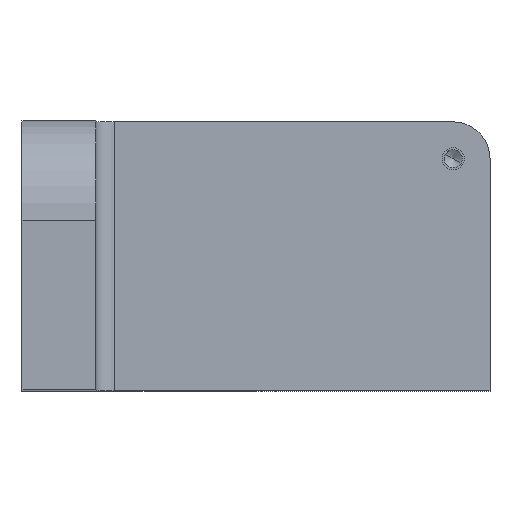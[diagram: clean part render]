
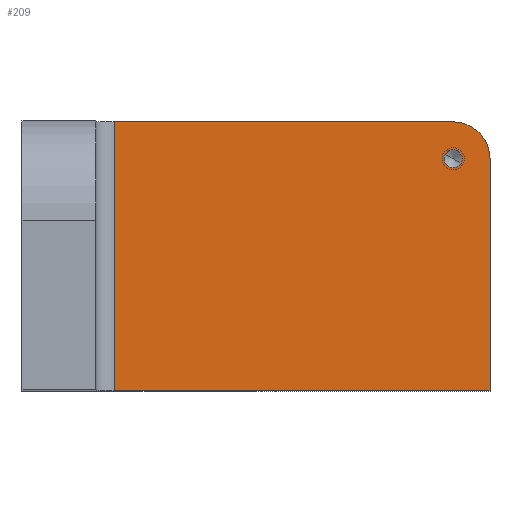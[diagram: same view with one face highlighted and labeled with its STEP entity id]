
A CAD part, top view. The second image highlights one B-rep face of the part: STEP entity #209.
In plain terms, the highlighted planar face has unit normal (0, 0, 1).
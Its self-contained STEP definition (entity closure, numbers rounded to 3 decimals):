
#144=CARTESIAN_POINT('Axis2P3D Location',(0.,0.,20.)) ;
#149=CARTESIAN_POINT('Line Origine',(76.,0.,20.)) ;
#153=CARTESIAN_POINT('Vertex',(25.,0.,20.)) ;
#155=CARTESIAN_POINT('Vertex',(127.,0.,20.)) ;
#158=CARTESIAN_POINT('Line Origine',(127.,31.5,20.)) ;
#162=CARTESIAN_POINT('Vertex',(127.,63.,20.)) ;
#165=CARTESIAN_POINT('Axis2P3D Location',(117.,63.,20.)) ;
#169=CARTESIAN_POINT('Vertex',(117.,73.,20.)) ;
#172=CARTESIAN_POINT('Line Origine',(71.,73.,20.)) ;
#176=CARTESIAN_POINT('Vertex',(25.,73.,20.)) ;
#179=CARTESIAN_POINT('Line Origine',(25.,36.5,20.)) ;
#191=CARTESIAN_POINT('Axis2P3D Location',(117.,63.,20.)) ;
#195=CARTESIAN_POINT('Vertex',(114.842,64.179,20.)) ;
#197=CARTESIAN_POINT('Vertex',(119.158,61.821,20.)) ;
#200=CARTESIAN_POINT('Axis2P3D Location',(117.,63.,20.)) ;
#145=DIRECTION('Axis2P3D Direction',(0.,0.,1.)) ;
#146=DIRECTION('Axis2P3D XDirection',(1.,0.,0.)) ;
#150=DIRECTION('Vector Direction',(1.,0.,0.)) ;
#159=DIRECTION('Vector Direction',(0.,1.,0.)) ;
#166=DIRECTION('Axis2P3D Direction',(0.,0.,1.)) ;
#173=DIRECTION('Vector Direction',(-1.,0.,0.)) ;
#180=DIRECTION('Vector Direction',(0.,-1.,0.)) ;
#192=DIRECTION('Axis2P3D Direction',(0.,0.,1.)) ;
#201=DIRECTION('Axis2P3D Direction',(0.,0.,1.)) ;
#147=AXIS2_PLACEMENT_3D('Plane Axis2P3D',#144,#145,#146) ;
#167=AXIS2_PLACEMENT_3D('Circle Axis2P3D',#165,#166,$) ;
#193=AXIS2_PLACEMENT_3D('Circle Axis2P3D',#191,#192,$) ;
#202=AXIS2_PLACEMENT_3D('Circle Axis2P3D',#200,#201,$) ;
#185=ORIENTED_EDGE('',*,*,#157,.T.) ;
#186=ORIENTED_EDGE('',*,*,#164,.T.) ;
#187=ORIENTED_EDGE('',*,*,#171,.T.) ;
#188=ORIENTED_EDGE('',*,*,#178,.T.) ;
#189=ORIENTED_EDGE('',*,*,#183,.F.) ;
#206=ORIENTED_EDGE('',*,*,#199,.F.) ;
#207=ORIENTED_EDGE('',*,*,#204,.F.) ;
#208=FACE_BOUND('',#205,.T.) ;
#151=VECTOR('Line Direction',#150,1.) ;
#160=VECTOR('Line Direction',#159,1.) ;
#174=VECTOR('Line Direction',#173,1.) ;
#181=VECTOR('Line Direction',#180,1.) ;
#209=ADVANCED_FACE('PartBody',(#190,#208),#148,.T.) ;
#168=CIRCLE('generated circle',#167,10.) ;
#194=CIRCLE('generated circle',#193,2.459) ;
#203=CIRCLE('generated circle',#202,2.459) ;
#157=EDGE_CURVE('',#154,#156,#152,.T.) ;
#164=EDGE_CURVE('',#156,#163,#161,.T.) ;
#171=EDGE_CURVE('',#163,#170,#168,.T.) ;
#178=EDGE_CURVE('',#170,#177,#175,.T.) ;
#183=EDGE_CURVE('',#154,#177,#182,.F.) ;
#199=EDGE_CURVE('',#196,#198,#194,.T.) ;
#204=EDGE_CURVE('',#198,#196,#203,.T.) ;
#184=EDGE_LOOP('',(#185,#186,#187,#188,#189)) ;
#205=EDGE_LOOP('',(#206,#207)) ;
#190=FACE_OUTER_BOUND('',#184,.T.) ;
#152=LINE('Line',#149,#151) ;
#161=LINE('Line',#158,#160) ;
#175=LINE('Line',#172,#174) ;
#182=LINE('Line',#179,#181) ;
#148=PLANE('',#147) ;
#154=VERTEX_POINT('',#153) ;
#156=VERTEX_POINT('',#155) ;
#163=VERTEX_POINT('',#162) ;
#170=VERTEX_POINT('',#169) ;
#177=VERTEX_POINT('',#176) ;
#196=VERTEX_POINT('',#195) ;
#198=VERTEX_POINT('',#197) ;
